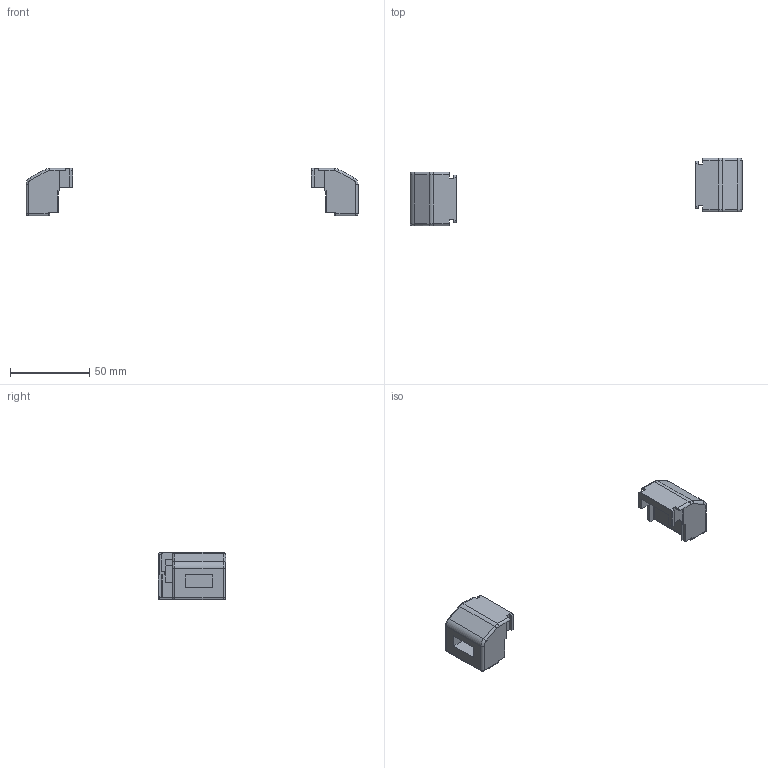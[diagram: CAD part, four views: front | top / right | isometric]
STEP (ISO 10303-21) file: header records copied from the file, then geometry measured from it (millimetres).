
FILE_DESCRIPTION((''),'2;1');
FILE_NAME('DEWI_SR-MINI_DMEC-ASSY_180','2016-07-11T',('Emanuel.Wild'),(''),'PRO/ENGINEER BY PARAMETRIC TECHNOLOGY CORPORATION, 2015200','PRO/ENGINEER BY PARAMETRIC TECHNOLOGY CORPORATION, 2015200','');
FILE_SCHEMA(('AUTOMOTIVE_DESIGN { 1 0 10303 214 1 1 1 1 }'));
Length unit declared in the file: millimetre
Products named in the file (2): DEWI_SR-MINI_DMEC; DEWI_SR-MINI_DMEC-ASSY_180
Assembly tree (2 placements, depth 2):
  DEWI_SR-MINI_DMEC-ASSY_180
    DEWI_SR-MINI_DMEC  x2
Bounding box: 210 x 42.6 x 29.8 mm (x, y, z)
Volume: 25339.5 mm3; surface area: 13623 mm2
Topology: 2 solids, 2 shells, 202 faces, 528 edges, 332 vertices
Faces by surface type: plane 120, cylinder 58, torus 16, bspline 4, sphere 4
Entity records: 3789 total; most frequent: CARTESIAN_POINT 570, DIRECTION 538, ORIENTED_EDGE 528, EDGE_CURVE 264, VECTOR 196, LINE 196, AXIS2_PLACEMENT_3D 171, VERTEX_POINT 166
